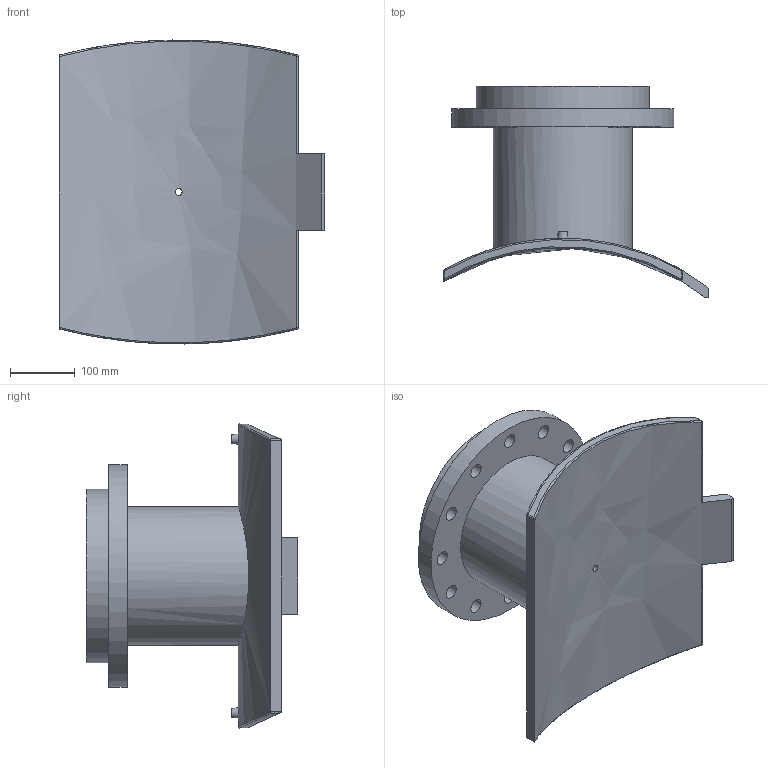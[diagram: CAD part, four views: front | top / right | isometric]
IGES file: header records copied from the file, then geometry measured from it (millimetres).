
Global section: file name: 495903710200T; native system: Autodesk Inventor 2019; preprocessor: unknown; author: KIM; date: 20240403.210242; units: millimetre
Bounding box: 410 x 326.66 x 469.58 mm (x, y, z)
Volume: 8590615 mm3; surface area: 836385.7 mm2
Topology: 1 solids, 1 shells, 63 faces, 166 edges, 128 vertices
Faces by surface type: bspline 63
